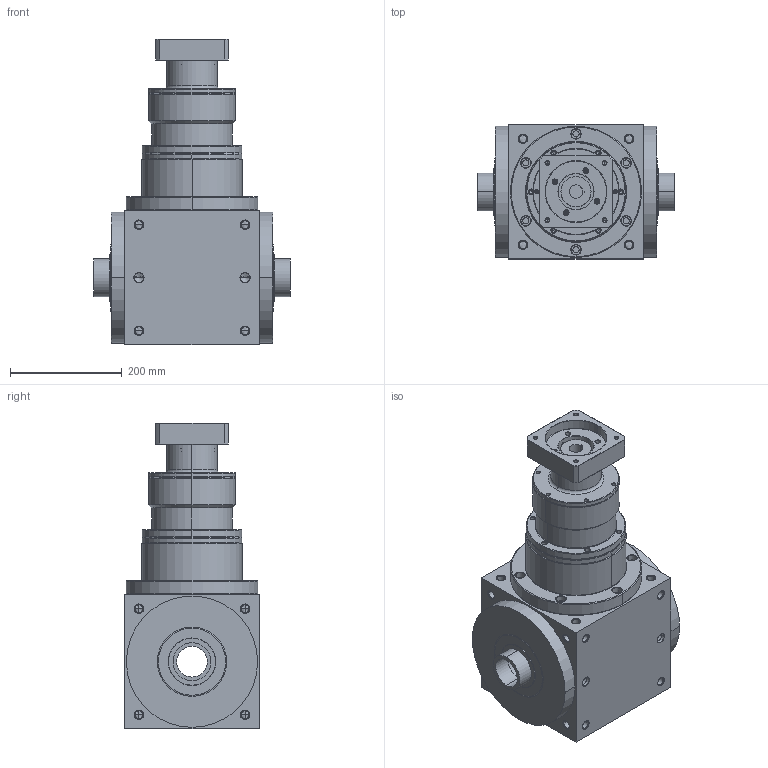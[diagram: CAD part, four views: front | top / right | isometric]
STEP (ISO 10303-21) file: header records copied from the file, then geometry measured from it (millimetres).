
FILE_DESCRIPTION((''),'2;1');
FILE_NAME('ATB240FC3-P0405301001_ASM','2014-07-28T',('d01544'),('APEX'),'PRO/ENGINEER BY PARAMETRIC TECHNOLOGY CORPORATION, 2008410','PRO/ENGINEER BY PARAMETRIC TECHNOLOGY CORPORATION, 2008410','');
FILE_SCHEMA(('CONFIG_CONTROL_DESIGN'));
Length unit declared in the file: millimetre
Products named in the file (6): ATBFC-HOUSING-3-9; P1820900001; P0226900002; P0227900001; P0405301001; ATB240FC3-P0405301001_ASM
Assembly tree (5 placements, depth 2):
  ATB240FC3-P0405301001_ASM
    ATBFC-HOUSING-3-9
    P1820900001
    P0226900002
    P0227900001
    P0405301001
Bounding box: 352 x 240 x 547 mm (x, y, z)
Volume: 18640800.2 mm3; surface area: 1008820.1 mm2
Topology: 5 solids, 49 shells, 906 faces, 2182 edges, 1289 vertices
Faces by surface type: cylinder 390, cone 338, plane 118, torus 60
Entity records: 26800 total; most frequent: CARTESIAN_POINT 5426, DIRECTION 4896, ORIENTED_EDGE 3992, EDGE_CURVE 2084, AXIS2_PLACEMENT_3D 2067, VERTEX_POINT 1289, CIRCLE 1140, EDGE_LOOP 1095
